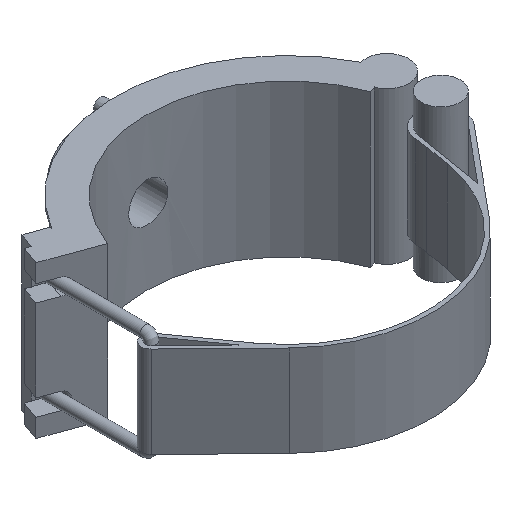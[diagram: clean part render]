
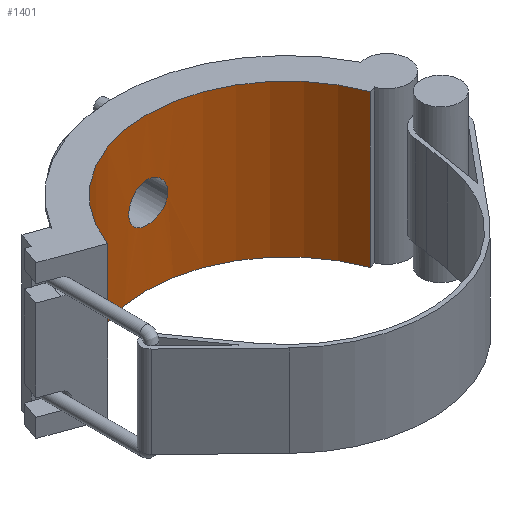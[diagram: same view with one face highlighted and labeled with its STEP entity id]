
A CAD part, isometric view. The second image highlights one B-rep face of the part: STEP entity #1401.
In plain terms, the highlighted cylindrical face has radius 161.7 mm (diameter 323.4 mm), a partial arc.
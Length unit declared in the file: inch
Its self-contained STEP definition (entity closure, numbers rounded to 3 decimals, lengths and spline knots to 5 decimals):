
#31=B_SPLINE_CURVE_WITH_KNOTS('',3,(#2496,#2497,#2498,#2499,#2500,#2501,
#2502,#2503,#2504,#2505,#2506,#2507,#2508,#2509,#2510,#2511,#2512,#2513,
#2514,#2515,#2516,#2517,#2518,#2519,#2520,#2521,#2522,#2523,#2524,#2525,
#2526,#2527,#2528,#2529,#2530,#2531,#2532,#2533,#2534,#2535,#2536,#2537,
#2538,#2539,#2540,#2541,#2542,#2543,#2544,#2545,#2546,#2547,#2548,#2549,
#2550,#2551,#2552,#2553,#2554,#2555,#2556,#2557,#2558,#2559,#2560,#2561),
 .UNSPECIFIED.,.T.,.F.,(4,2,2,2,2,2,2,2,2,2,2,2,2,2,2,2,2,2,2,2,2,2,2,2,
2,2,2,2,2,2,2,2,4),(0.,0.42744,0.85488,1.28232,
1.70976,2.13719,2.56462,2.99206,3.41949,
3.84692,4.27436,4.70179,5.12922,5.55666,
5.9841,6.41154,6.83898,7.26642,7.69386,
8.12129,8.54873,8.97617,9.4036,9.83103,
10.25847,10.6859,11.11333,11.54077,11.9682,
12.39564,12.82308,13.25052,13.67795),
 .UNSPECIFIED.);
#56=CYLINDRICAL_SURFACE('',#1553,6.36614);
#81=FACE_BOUND('',#305,.T.);
#127=CIRCLE('',#1519,6.36614);
#138=CIRCLE('',#1551,6.36614);
#213=FACE_OUTER_BOUND('',#304,.T.);
#304=EDGE_LOOP('',(#1213,#1214,#1215,#1216));
#305=EDGE_LOOP('',(#1217));
#362=LINE('',#2150,#476);
#436=LINE('',#2493,#550);
#476=VECTOR('',#1694,0.3937);
#550=VECTOR('',#1912,0.3937);
#613=VERTEX_POINT('',#2147);
#614=VERTEX_POINT('',#2149);
#655=VERTEX_POINT('',#2282);
#671=VERTEX_POINT('',#2489);
#672=VERTEX_POINT('',#2495);
#751=EDGE_CURVE('',#614,#613,#362,.T.);
#820=EDGE_CURVE('',#614,#655,#127,.T.);
#857=EDGE_CURVE('',#671,#613,#138,.T.);
#858=EDGE_CURVE('',#671,#655,#436,.T.);
#859=EDGE_CURVE('',#672,#672,#31,.T.);
#1213=ORIENTED_EDGE('',*,*,#858,.T.);
#1214=ORIENTED_EDGE('',*,*,#820,.F.);
#1215=ORIENTED_EDGE('',*,*,#751,.T.);
#1216=ORIENTED_EDGE('',*,*,#857,.F.);
#1217=ORIENTED_EDGE('',*,*,#859,.T.);
#1401=ADVANCED_FACE('',(#213,#81),#56,.F.);
#1519=AXIS2_PLACEMENT_3D('',#2283,#1824,#1825);
#1551=AXIS2_PLACEMENT_3D('',#2491,#1908,#1909);
#1553=AXIS2_PLACEMENT_3D('',#2494,#1913,#1914);
#1694=DIRECTION('',(0.,0.,-1.));
#1824=DIRECTION('center_axis',(0.,0.,-1.));
#1825=DIRECTION('ref_axis',(-1.,0.,0.));
#1908=DIRECTION('center_axis',(0.,0.,1.));
#1909=DIRECTION('ref_axis',(-1.,0.,0.));
#1912=DIRECTION('',(0.,0.,1.));
#1913=DIRECTION('center_axis',(0.,0.,1.));
#1914=DIRECTION('ref_axis',(-1.,0.,0.));
#2147=CARTESIAN_POINT('',(-5.98222,2.17735,-3.465));
#2149=CARTESIAN_POINT('',(-5.98222,2.17735,3.465));
#2150=CARTESIAN_POINT('',(-5.98222,2.17735,0.));
#2282=CARTESIAN_POINT('',(5.98222,2.17735,3.465));
#2283=CARTESIAN_POINT('Origin',(0.,0.,3.465));
#2489=CARTESIAN_POINT('',(5.98222,2.17735,-3.465));
#2491=CARTESIAN_POINT('Origin',(0.,0.,-3.465));
#2493=CARTESIAN_POINT('',(5.98222,2.17735,0.));
#2494=CARTESIAN_POINT('Origin',(0.,0.,0.));
#2495=CARTESIAN_POINT('',(0.89222,6.30331,0.));
#2496=CARTESIAN_POINT('Ctrl Pts',(0.89222,6.30331,0.));
#2497=CARTESIAN_POINT('Ctrl Pts',(0.89222,6.30331,-0.05609));
#2498=CARTESIAN_POINT('Ctrl Pts',(0.88685,6.30408,-0.11408));
#2499=CARTESIAN_POINT('Ctrl Pts',(0.86423,6.30722,-0.22938));
#2500=CARTESIAN_POINT('Ctrl Pts',(0.84699,6.30959,-0.2867));
#2501=CARTESIAN_POINT('Ctrl Pts',(0.80144,6.31553,-0.39659));
#2502=CARTESIAN_POINT('Ctrl Pts',(0.77309,6.31911,-0.44925));
#2503=CARTESIAN_POINT('Ctrl Pts',(0.7076,6.32678,-0.54662));
#2504=CARTESIAN_POINT('Ctrl Pts',(0.67046,6.33086,-0.59133));
#2505=CARTESIAN_POINT('Ctrl Pts',(0.59133,6.33874,-0.67046));
#2506=CARTESIAN_POINT('Ctrl Pts',(0.54662,6.34282,-0.7076));
#2507=CARTESIAN_POINT('Ctrl Pts',(0.44925,6.35046,-0.77309));
#2508=CARTESIAN_POINT('Ctrl Pts',(0.39659,6.35401,-0.80144));
#2509=CARTESIAN_POINT('Ctrl Pts',(0.2867,6.35992,-0.84699));
#2510=CARTESIAN_POINT('Ctrl Pts',(0.22938,6.36227,-0.86423));
#2511=CARTESIAN_POINT('Ctrl Pts',(0.11408,6.36538,-0.88685));
#2512=CARTESIAN_POINT('Ctrl Pts',(0.05609,6.36614,-0.89222));
#2513=CARTESIAN_POINT('Ctrl Pts',(-0.05609,6.36614,
-0.89222));
#2514=CARTESIAN_POINT('Ctrl Pts',(-0.11408,6.36538,-0.88685));
#2515=CARTESIAN_POINT('Ctrl Pts',(-0.22938,6.36227,-0.86423));
#2516=CARTESIAN_POINT('Ctrl Pts',(-0.2867,6.35992,-0.84699));
#2517=CARTESIAN_POINT('Ctrl Pts',(-0.39659,6.35401,-0.80144));
#2518=CARTESIAN_POINT('Ctrl Pts',(-0.44925,6.35046,-0.77309));
#2519=CARTESIAN_POINT('Ctrl Pts',(-0.54662,6.34282,-0.7076));
#2520=CARTESIAN_POINT('Ctrl Pts',(-0.59133,6.33874,-0.67046));
#2521=CARTESIAN_POINT('Ctrl Pts',(-0.67046,6.33086,-0.59133));
#2522=CARTESIAN_POINT('Ctrl Pts',(-0.7076,6.32678,-0.54662));
#2523=CARTESIAN_POINT('Ctrl Pts',(-0.77309,6.31911,-0.44925));
#2524=CARTESIAN_POINT('Ctrl Pts',(-0.80144,6.31553,-0.39659));
#2525=CARTESIAN_POINT('Ctrl Pts',(-0.84699,6.30959,-0.2867));
#2526=CARTESIAN_POINT('Ctrl Pts',(-0.86423,6.30722,-0.22938));
#2527=CARTESIAN_POINT('Ctrl Pts',(-0.88685,6.30408,-0.11408));
#2528=CARTESIAN_POINT('Ctrl Pts',(-0.89222,6.30331,-0.05609));
#2529=CARTESIAN_POINT('Ctrl Pts',(-0.89222,6.30331,0.05609));
#2530=CARTESIAN_POINT('Ctrl Pts',(-0.88685,6.30408,0.11408));
#2531=CARTESIAN_POINT('Ctrl Pts',(-0.86423,6.30722,0.22938));
#2532=CARTESIAN_POINT('Ctrl Pts',(-0.84699,6.30959,0.2867));
#2533=CARTESIAN_POINT('Ctrl Pts',(-0.80144,6.31553,0.39659));
#2534=CARTESIAN_POINT('Ctrl Pts',(-0.77309,6.31911,0.44925));
#2535=CARTESIAN_POINT('Ctrl Pts',(-0.7076,6.32678,0.54662));
#2536=CARTESIAN_POINT('Ctrl Pts',(-0.67046,6.33086,0.59133));
#2537=CARTESIAN_POINT('Ctrl Pts',(-0.59133,6.33874,0.67046));
#2538=CARTESIAN_POINT('Ctrl Pts',(-0.54662,6.34282,0.7076));
#2539=CARTESIAN_POINT('Ctrl Pts',(-0.44925,6.35046,0.77309));
#2540=CARTESIAN_POINT('Ctrl Pts',(-0.39659,6.35401,0.80144));
#2541=CARTESIAN_POINT('Ctrl Pts',(-0.2867,6.35992,0.84699));
#2542=CARTESIAN_POINT('Ctrl Pts',(-0.22938,6.36227,0.86423));
#2543=CARTESIAN_POINT('Ctrl Pts',(-0.11408,6.36538,0.88685));
#2544=CARTESIAN_POINT('Ctrl Pts',(-0.05609,6.36614,
0.89222));
#2545=CARTESIAN_POINT('Ctrl Pts',(0.05609,6.36614,0.89222));
#2546=CARTESIAN_POINT('Ctrl Pts',(0.11408,6.36538,0.88685));
#2547=CARTESIAN_POINT('Ctrl Pts',(0.22938,6.36227,0.86423));
#2548=CARTESIAN_POINT('Ctrl Pts',(0.2867,6.35992,0.84699));
#2549=CARTESIAN_POINT('Ctrl Pts',(0.39659,6.35401,0.80144));
#2550=CARTESIAN_POINT('Ctrl Pts',(0.44925,6.35046,0.77309));
#2551=CARTESIAN_POINT('Ctrl Pts',(0.54662,6.34282,0.7076));
#2552=CARTESIAN_POINT('Ctrl Pts',(0.59133,6.33874,0.67046));
#2553=CARTESIAN_POINT('Ctrl Pts',(0.67046,6.33086,0.59133));
#2554=CARTESIAN_POINT('Ctrl Pts',(0.7076,6.32678,0.54662));
#2555=CARTESIAN_POINT('Ctrl Pts',(0.77309,6.31911,0.44925));
#2556=CARTESIAN_POINT('Ctrl Pts',(0.80144,6.31553,0.39659));
#2557=CARTESIAN_POINT('Ctrl Pts',(0.84699,6.30959,0.2867));
#2558=CARTESIAN_POINT('Ctrl Pts',(0.86423,6.30722,0.22938));
#2559=CARTESIAN_POINT('Ctrl Pts',(0.88685,6.30408,0.11408));
#2560=CARTESIAN_POINT('Ctrl Pts',(0.89222,6.30331,0.05609));
#2561=CARTESIAN_POINT('Ctrl Pts',(0.89222,6.30331,0.));
